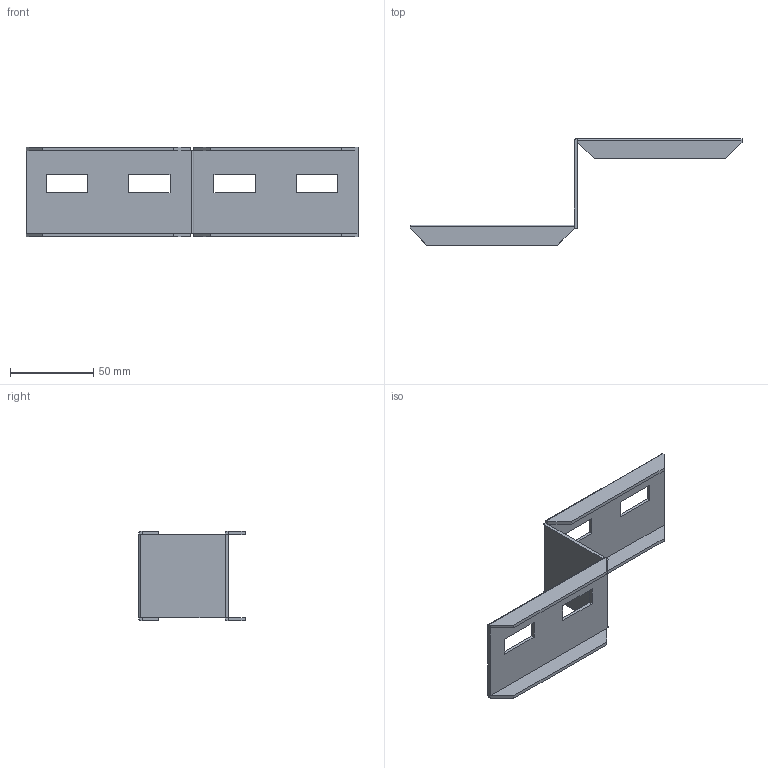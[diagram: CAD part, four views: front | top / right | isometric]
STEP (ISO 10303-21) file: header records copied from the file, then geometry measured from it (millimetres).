
FILE_DESCRIPTION(/* description */ ('','CAx-IF Rec.Pracs.---Representation and Presentation of Product Manufacturing Information (PMI)---4.0---2014-10-13'),/* implementation_level */ '2;1');
FILE_NAME(/* name */ 'Eurostrut_ERHR60-50_Right Hand Reducer for Cable Ladder ECL.step',/* time_stamp */ '2026-09-08T14:05:12+02:00',/* author */ (''),/* organization */ (''),/* preprocessor_version */ 'ST-DEVELOPER v20.1',/* originating_system */ 'Autodesk Revit 2027 27.2.0.39',/* authorisation */ '');
FILE_SCHEMA (('AP242_MANAGED_MODEL_BASED_3D_ENGINEERING_MIM_LF { 1 0 10303 442 2 1 4 }'));
Length unit declared in the file: millimetre
Products named in the file (4): TopLevelAssembly; Joined Solid Geometry; Joined Solid Geometry_1; Joined Solid Geometry_2
Assembly tree (3 placements, depth 2):
  TopLevelAssembly
    Joined Solid Geometry
    Joined Solid Geometry_1
    Joined Solid Geometry_2
Bounding box: 200 x 64 x 54 mm (x, y, z)
Volume: 31597.6 mm3; surface area: 34954.8 mm2
Topology: 5 solids, 5 shells, 64 faces, 162 edges, 108 vertices
Faces by surface type: plane 58, cylinder 6
Entity records: 1984 total; most frequent: CARTESIAN_POINT 341, ORIENTED_EDGE 324, DIRECTION 316, EDGE_CURVE 162, LINE 150, VECTOR 150, VERTEX_POINT 108, AXIS2_PLACEMENT_3D 83
